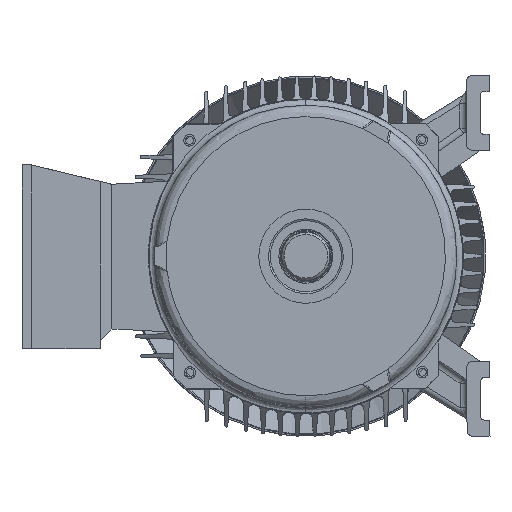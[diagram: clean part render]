
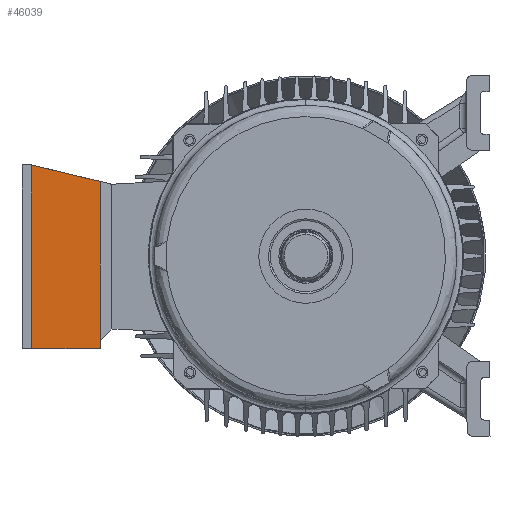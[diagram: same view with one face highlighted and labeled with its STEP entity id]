
A CAD part, left-side view. The second image highlights one B-rep face of the part: STEP entity #46039.
In plain terms, the highlighted planar face has unit normal (-1, 0, 0) as drawn and (0, 0, -1) by its records, which use the part's own axes.
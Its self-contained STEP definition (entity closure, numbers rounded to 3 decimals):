
#9624 = LINE ( 'NONE', #27113, #9625 ) ;
#9625 = VECTOR ( 'NONE', #27115, 1000. ) ;
#11043 = AXIS2_PLACEMENT_3D ( 'NONE', #29498, #29503, #29504 ) ;
#21529 = CARTESIAN_POINT ( 'NONE',  ( -80., 70., 0. ) ) ;
#21593 = CARTESIAN_POINT ( 'NONE',  ( -65.429, 10., 0. ) ) ;
#21607 = CARTESIAN_POINT ( 'NONE',  ( 73., 10., 0. ) ) ;
#21611 = CARTESIAN_POINT ( 'NONE',  ( 80., 70., 0. ) ) ;
#21617 = CARTESIAN_POINT ( 'NONE',  ( 80., 10., 0. ) ) ;
#27100 = EDGE_CURVE ( 'NONE', #61759, #61812, #59231, .T. ) ;
#27113 = CARTESIAN_POINT ( 'NONE',  ( -80., 10., 0. ) ) ;
#27115 = DIRECTION ( 'NONE',  ( -1., 0., 0. ) ) ;
#27116 = EDGE_CURVE ( 'NONE', #61812, #61726, #59235, .T. ) ;
#27175 = EDGE_CURVE ( 'NONE', #61741, #61513, #59258, .T. ) ;
#27182 = EDGE_CURVE ( 'NONE', #61513, #61759, #59262, .T. ) ;
#29497 = PLANE ( 'NONE',  #11043 ) ;
#29498 = CARTESIAN_POINT ( 'NONE',  ( -80., 70., 0. ) ) ;
#29503 = DIRECTION ( 'NONE',  ( 0., 0., -1. ) ) ;
#29504 = DIRECTION ( 'NONE',  ( -1., 0., 0. ) ) ;
#36991 = EDGE_LOOP ( 'NONE', ( #44618, #44629, #44633, #44639, #44645 ) ) ;
#44618 = ORIENTED_EDGE ( 'NONE', *, *, #27182, .T. ) ;
#44629 = ORIENTED_EDGE ( 'NONE', *, *, #27100, .T. ) ;
#44633 = ORIENTED_EDGE ( 'NONE', *, *, #27116, .T. ) ;
#44639 = ORIENTED_EDGE ( 'NONE', *, *, #64365, .T. ) ;
#44645 = ORIENTED_EDGE ( 'NONE', *, *, #27175, .T. ) ;
#46039 = ADVANCED_FACE ( 'NONE', ( #73514 ), #29497, .T. ) ;
#56869 = DIRECTION ( 'NONE',  ( 1., 0., 0. ) ) ;
#56872 = CARTESIAN_POINT ( 'NONE',  ( -80., 70., 0. ) ) ;
#56882 = DIRECTION ( 'NONE',  ( -0.236, 0.972, 0. ) ) ;
#56999 = CARTESIAN_POINT ( 'NONE',  ( -65.429, 10., 0. ) ) ;
#57088 = DIRECTION ( 'NONE',  ( -1., 0., 0. ) ) ;
#57094 = CARTESIAN_POINT ( 'NONE',  ( -80., 10., 0. ) ) ;
#57136 = DIRECTION ( 'NONE',  ( 0., -1., 0. ) ) ;
#57144 = CARTESIAN_POINT ( 'NONE',  ( 80., 70., 0. ) ) ;
#59231 = LINE ( 'NONE', #57144, #59233 ) ;
#59233 = VECTOR ( 'NONE', #57136, 1000. ) ;
#59235 = LINE ( 'NONE', #57094, #59240 ) ;
#59240 = VECTOR ( 'NONE', #57088, 1000. ) ;
#59257 = VECTOR ( 'NONE', #56869, 1000. ) ;
#59258 = LINE ( 'NONE', #56999, #59260 ) ;
#59260 = VECTOR ( 'NONE', #56882, 1000. ) ;
#59262 = LINE ( 'NONE', #56872, #59257 ) ;
#61513 = VERTEX_POINT ( 'NONE', #21529 ) ;
#61726 = VERTEX_POINT ( 'NONE', #21607 ) ;
#61741 = VERTEX_POINT ( 'NONE', #21593 ) ;
#61759 = VERTEX_POINT ( 'NONE', #21611 ) ;
#61812 = VERTEX_POINT ( 'NONE', #21617 ) ;
#64365 = EDGE_CURVE ( 'NONE', #61726, #61741, #9624, .T. ) ;
#73514 = FACE_OUTER_BOUND ( 'NONE', #36991, .T. ) ;
